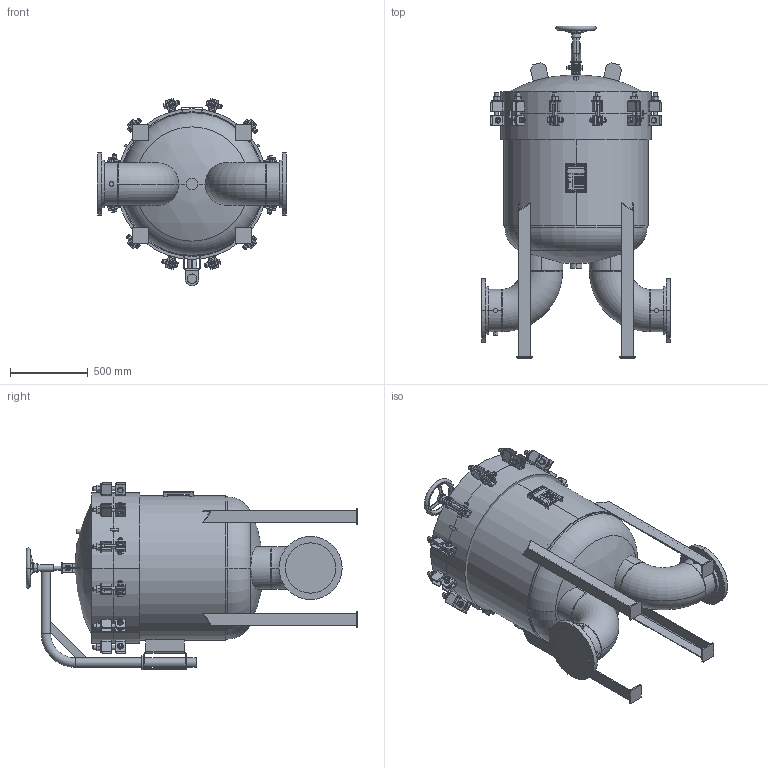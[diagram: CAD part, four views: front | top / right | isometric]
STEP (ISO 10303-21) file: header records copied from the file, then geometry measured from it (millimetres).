
FILE_DESCRIPTION (( 'STEP AP203' ), '1' );
FILE_NAME ('002005-00245.step', '2025-12-09T14:46:37', ( '' ), ( '' ), 'SwSTEP 2.0', 'SolidWorks 2023', '' );
FILE_SCHEMA (( 'CONFIG_CONTROL_DESIGN' ));
Length unit declared in the file: inch
Products named in the file (1): 002005-00245
Bounding box: 1219.2 x 2135.58 x 1204.49 mm (x, y, z)
Volume: 505971533.1 mm3; surface area: 16210024.7 mm2
Topology: 61 solids, 61 shells, 2274 faces, 5252 edges, 3246 vertices
Faces by surface type: plane 944, cylinder 644, cone 528, torus 110, bspline 36, sphere 12
Entity records: 73146 total; most frequent: CARTESIAN_POINT 22115, DIRECTION 10778, ORIENTED_EDGE 10480, EDGE_CURVE 5240, AXIS2_PLACEMENT_3D 4315, VERTEX_POINT 3246, EDGE_LOOP 2446, FACE_OUTER_BOUND 2274
